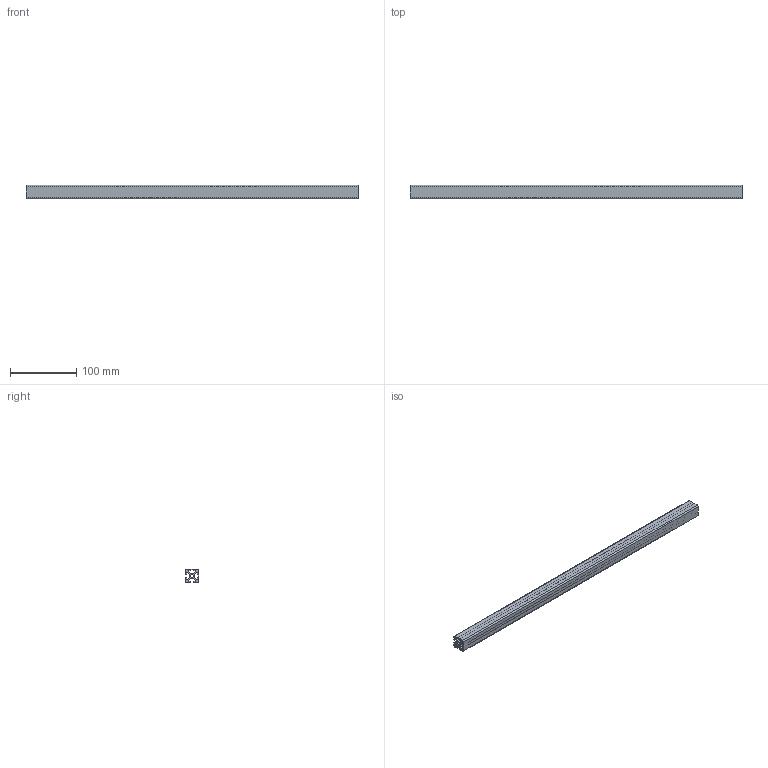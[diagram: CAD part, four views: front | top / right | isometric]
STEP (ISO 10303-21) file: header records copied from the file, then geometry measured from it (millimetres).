
FILE_DESCRIPTION (( 'STEP AP203' ), '1' );
FILE_NAME ('RP4900.STEP', '2026-05-12T13:32:13', ( '' ), ( '' ), 'SwSTEP 2.0', 'SolidWorks 2026', '' );
FILE_SCHEMA (( 'CONFIG_CONTROL_DESIGN' ));
Length unit declared in the file: millimetre
Products named in the file (1): RP4900
Bounding box: 500 x 20 x 20 mm (x, y, z)
Volume: 96311.9 mm3; surface area: 93925.7 mm2
Topology: 1 solids, 1 shells, 78 faces, 228 edges, 152 vertices
Faces by surface type: cylinder 40, plane 38
Entity records: 2701 total; most frequent: DIRECTION 466, CARTESIAN_POINT 459, ORIENTED_EDGE 456, EDGE_CURVE 228, AXIS2_PLACEMENT_3D 159, VERTEX_POINT 152, VECTOR 148, LINE 148
